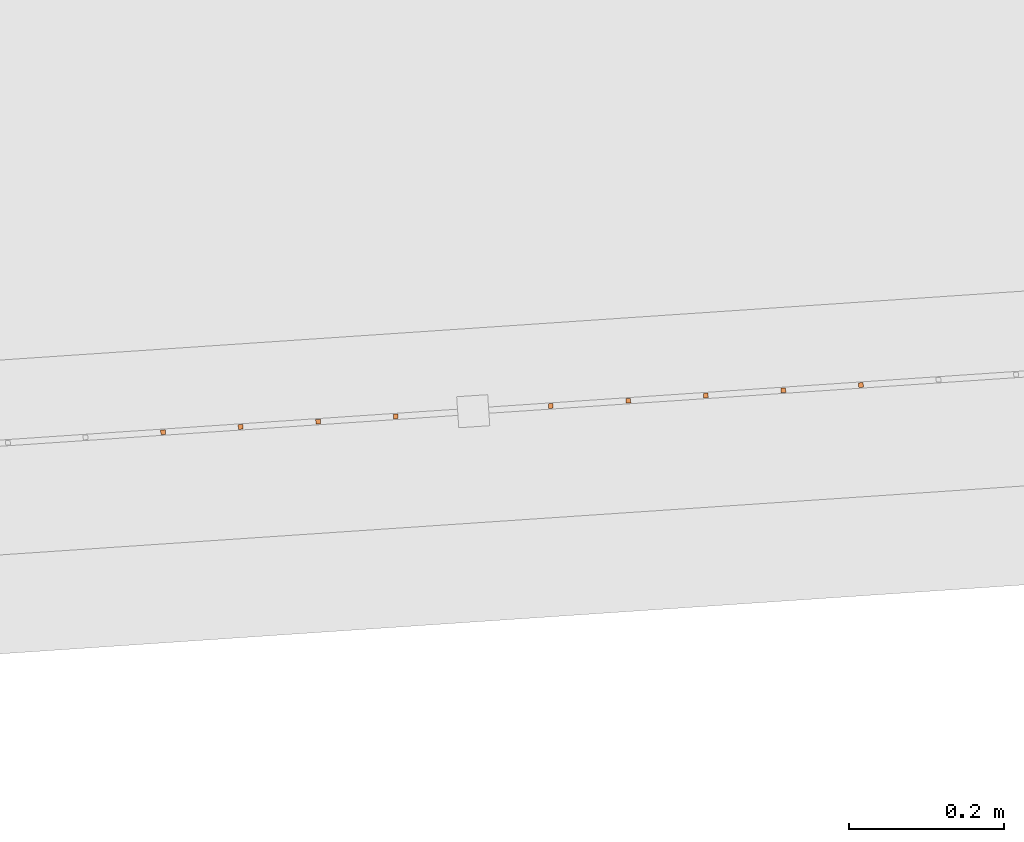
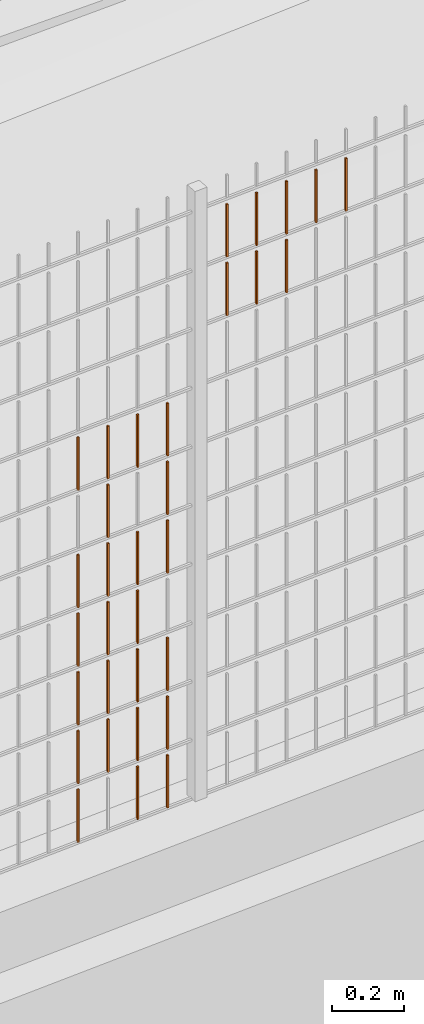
# One storey, part 314 of 1809: 32 proxies, 1 element without a shape of its own.
"""IFC2X3 building model written with IfcOpenShell, lengths in millimetres."""

from ifc_helpers import new_model, entity, si_unit, converted_unit, derived_unit, money_unit, direction, frame, origin_with_axes, place, context, subcontext, project, spatial, faceted_brep, source, transform, mapped, material, type_object, element, aggregate, save


model = new_model("IFC2X3")

# Units and contexts
model_context = context("Model", 3, precision=0.01, world=origin_with_axes(), true_north=direction((0.0, 1.0)))
body_context = subcontext(model_context, "Body", "Model", "MODEL_VIEW")
ifc_project = project(units=[si_unit("LENGTHUNIT", "METRE", prefix="MILLI"), si_unit("AREAUNIT", "SQUARE_METRE"), si_unit("VOLUMEUNIT", "CUBIC_METRE"), converted_unit("PLANEANGLEUNIT", "DEGREE", entity("IfcPlaneAngleMeasure", 0.0174532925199), si_unit("PLANEANGLEUNIT", "RADIAN"), dimensions=[0, 0, 0, 0, 0, 0, 0]), si_unit("SOLIDANGLEUNIT", "STERADIAN"), money_unit("EUR"), converted_unit("TIMEUNIT", "Year", entity("IfcTimeMeasure", 31556926.0), si_unit("TIMEUNIT", "SECOND"), dimensions=[0, 0, 1, 0, 0, 0, 0]), si_unit("MASSUNIT", "GRAM", prefix="KILO"), si_unit("THERMODYNAMICTEMPERATUREUNIT", "DEGREE_CELSIUS"), si_unit("LUMINOUSINTENSITYUNIT", "LUMEN"), si_unit("ENERGYUNIT", "JOULE", prefix="MEGA"), derived_unit("THERMALCONDUCTANCEUNIT", [(si_unit("POWERUNIT", "WATT"), 1), (si_unit("LENGTHUNIT", "METRE"), -1), (si_unit("THERMODYNAMICTEMPERATUREUNIT", "KELVIN"), -1)]), derived_unit("SPECIFICHEATCAPACITYUNIT", [(si_unit("ENERGYUNIT", "JOULE"), 1), (si_unit("MASSUNIT", "GRAM", prefix="KILO"), -1), (si_unit("THERMODYNAMICTEMPERATUREUNIT", "KELVIN"), -1)]), derived_unit("MASSDENSITYUNIT", [(si_unit("MASSUNIT", "GRAM", prefix="KILO"), 1), (si_unit("VOLUMEUNIT", "CUBIC_METRE"), -1)])], contexts=[model_context])

# Site, building, storey
site_placement = place(None, origin_with_axes())
site = spatial("IfcSite", under=ifc_project, at=site_placement, Name="Politse- ja Piirivalveameti ning Päästeameti ühishoone", CompositionType="ELEMENT")
building_placement = place(site_placement, origin_with_axes())
building = spatial("IfcBuilding", under=site, at=building_placement, Name="Politse- ja Piirivalveameti ning Päästeameti ühishoone", CompositionType="ELEMENT")
storey_placement = place(building_placement, origin_with_axes())
storey = spatial("IfcBuildingStorey", under=building, at=storey_placement, Name="Esimene korrus", CompositionType="ELEMENT", Elevation=0.0)

# Proxies
building_element_proxy_type_1 = type_object("IfcBuildingElementProxyType", Name="Railing Type", PredefinedType="NOTDEFINED")
proxy_1_placement = place(storey_placement, frame((89252.001212, -29183.4766571, 203.661247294), z_axis=(0.0, 0.0, 1.0), x_axis=(1.0, 0.0, 0.0)))
proxy_1 = element("IfcBuildingElementProxy", 1, at=proxy_1_placement, inside=storey, type_object=building_element_proxy_type_1, Name="PIIRDEAED")
ifc_material = material(Name="ET-03_Raud")
building_element_proxy_type_2 = type_object("IfcBuildingElementProxyType", Name="IfcBuildingElementProxy", PredefinedType="NOTDEFINED")
shared_shape_1 = source(origin_with_axes(), body_context, "Body", "Brep", [
    faceted_brep([(3.0, 3.0, -0.000752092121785), (-3.0, 3.0, -0.000752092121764), (-3.0, 3.0, 179.99926046), (3.0, 3.0, 179.99926046), (3.0, -3.0, 0.000752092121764), (-3.0, -3.0, 0.000752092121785), (-3.0, -3.0, 180.000764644), (3.0, -3.0, 180.000764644)], [[[0, 1, 2, 3]], [[0, 4, 5, 1]], [[1, 5, 6, 2]], [[3, 2, 6, 7]], [[4, 0, 3, 7]], [[5, 4, 7, 6]]]),
])
proxy_2_placement = place(proxy_1_placement, frame((-39636.3705454, -19975.0620097, 1817.27500916), z_axis=(0.0, 0.0, 1.0), x_axis=(1.0, 0.0, 0.0)))
proxy_2 = element("IfcBuildingElementProxy", 2, at=proxy_2_placement, type_object=building_element_proxy_type_2, material=ifc_material, Name="BALUSTER - 001", context=body_context, shape_type="MappedRepresentation", body=[
    mapped(shared_shape_1, transform((0.0, 0.0, 0.0), x_axis=(-0.0673926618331, 0.997726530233, 0.0), y_axis=(-0.997726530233, -0.0673926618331, 0.0), z_axis=(0.0, 0.0, 1.0))),
])
shared_shape_2 = source(origin_with_axes(), body_context, "Body", "Brep", [
    faceted_brep([(3.0, 3.0, -0.000752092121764), (-3.0, 3.0, -0.000752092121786), (-3.0, 3.0, 179.99926046), (3.0, 3.0, 179.99926046), (3.0, -3.0, 0.000752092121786), (-3.0, -3.0, 0.000752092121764), (-3.0, -3.0, 180.000764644), (3.0, -3.0, 180.000764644)], [[[0, 1, 2, 3]], [[0, 4, 5, 1]], [[1, 5, 6, 2]], [[3, 2, 6, 7]], [[4, 0, 3, 7]], [[5, 4, 7, 6]]]),
])
proxy_3_placement = place(proxy_1_placement, frame((-39935.6885045, -19995.2798082, 1217.19979995), z_axis=(0.0, 0.0, 1.0), x_axis=(1.0, 0.0, 0.0)))
proxy_3 = element("IfcBuildingElementProxy", 3, at=proxy_3_placement, type_object=building_element_proxy_type_2, material=ifc_material, Name="BALUSTER - 001", context=body_context, shape_type="MappedRepresentation", body=[
    mapped(shared_shape_2, transform((0.0, 0.0, 0.0), x_axis=(-0.0673926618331, 0.997726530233, 0.0), y_axis=(-0.997726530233, -0.0673926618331, 0.0), z_axis=(0.0, 0.0, 1.0))),
])
shared_shape_3 = source(origin_with_axes(), body_context, "Body", "Brep", [
    faceted_brep([(3.0, 3.0, -0.000752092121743), (-3.0, 3.0, -0.000752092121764), (-3.0, 3.0, 179.99926046), (3.0, 3.0, 179.99926046), (3.0, -3.0, 0.000752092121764), (-3.0, -3.0, 0.000752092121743), (-3.0, -3.0, 180.000764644), (3.0, -3.0, 180.000764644)], [[[0, 1, 2, 3]], [[0, 4, 5, 1]], [[1, 5, 6, 2]], [[3, 2, 6, 7]], [[4, 0, 3, 7]], [[5, 4, 7, 6]]]),
])
proxy_4_placement = place(proxy_1_placement, frame((-39835.9158515, -19988.5405421, 1217.22486969), z_axis=(0.0, 0.0, 1.0), x_axis=(1.0, 0.0, 0.0)))
proxy_4 = element("IfcBuildingElementProxy", 4, at=proxy_4_placement, type_object=building_element_proxy_type_2, material=ifc_material, Name="BALUSTER - 001", context=body_context, shape_type="MappedRepresentation", body=[
    mapped(shared_shape_3, transform((0.0, 0.0, 0.0), x_axis=(-0.0673926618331, 0.997726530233, 0.0), y_axis=(-0.997726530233, -0.0673926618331, 0.0), z_axis=(0.0, 0.0, 1.0))),
])
shared_shape_4 = source(origin_with_axes(), body_context, "Body", "Brep", [
    faceted_brep([(3.0, 3.0, -0.000752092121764), (-3.0, 3.0, -0.000752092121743), (-3.0, 3.0, 179.99926046), (3.0, 3.0, 179.99926046), (3.0, -3.0, 0.000752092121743), (-3.0, -3.0, 0.000752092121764), (-3.0, -3.0, 180.000764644), (3.0, -3.0, 180.000764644)], [[[0, 1, 2, 3]], [[0, 4, 5, 1]], [[1, 5, 6, 2]], [[3, 2, 6, 7]], [[4, 0, 3, 7]], [[5, 4, 7, 6]]]),
])
proxy_5_placement = place(proxy_1_placement, frame((-39536.5978924, -19968.3227435, 1617.3000789), z_axis=(0.0, 0.0, 1.0), x_axis=(1.0, 0.0, 0.0)))
proxy_5 = element("IfcBuildingElementProxy", 5, at=proxy_5_placement, type_object=building_element_proxy_type_2, material=ifc_material, Name="BALUSTER - 001", context=body_context, shape_type="MappedRepresentation", body=[
    mapped(shared_shape_4, transform((0.0, 0.0, 0.0), x_axis=(-0.0673926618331, 0.997726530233, 0.0), y_axis=(-0.997726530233, -0.0673926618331, 0.0), z_axis=(0.0, 0.0, 1.0))),
])
shared_shape_5 = source(origin_with_axes(), body_context, "Body", "Brep", [
    faceted_brep([(3.0, 3.0, -0.000752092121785), (-3.0, 3.0, -0.000752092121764), (-3.0, 3.0, 179.99926046), (3.0, 3.0, 179.99926046), (3.0, -3.0, 0.000752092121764), (-3.0, -3.0, 0.000752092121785), (-3.0, -3.0, 180.000764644), (3.0, -3.0, 180.000764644)], [[[0, 1, 2, 3]], [[0, 4, 5, 1]], [[1, 5, 6, 2]], [[3, 2, 6, 7]], [[4, 0, 3, 7]], [[5, 4, 7, 6]]]),
])
proxy_6_placement = place(proxy_1_placement, frame((-39636.3705454, -19975.0620097, 1617.27500916), z_axis=(0.0, 0.0, 1.0), x_axis=(1.0, 0.0, 0.0)))
proxy_6 = element("IfcBuildingElementProxy", 6, at=proxy_6_placement, type_object=building_element_proxy_type_2, material=ifc_material, Name="BALUSTER - 001", context=body_context, shape_type="MappedRepresentation", body=[
    mapped(shared_shape_5, transform((0.0, 0.0, 0.0), x_axis=(-0.0673926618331, 0.997726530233, 0.0), y_axis=(-0.997726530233, -0.0673926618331, 0.0), z_axis=(0.0, 0.0, 1.0))),
])
shared_shape_6 = source(origin_with_axes(), body_context, "Body", "Brep", [
    faceted_brep([(3.0, 3.0, -0.000752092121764), (-3.0, 3.0, -0.000752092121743), (-3.0, 3.0, 179.99926046), (3.0, 3.0, 179.99926046), (3.0, -3.0, 0.000752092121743), (-3.0, -3.0, 0.000752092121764), (-3.0, -3.0, 180.000764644), (3.0, -3.0, 180.000764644)], [[[0, 1, 2, 3]], [[0, 4, 5, 1]], [[1, 5, 6, 2]], [[3, 2, 6, 7]], [[4, 0, 3, 7]], [[5, 4, 7, 6]]]),
])
proxy_7_placement = place(proxy_1_placement, frame((-39536.5978924, -19968.3227435, 1817.3000789), z_axis=(0.0, 0.0, 1.0), x_axis=(1.0, 0.0, 0.0)))
proxy_7 = element("IfcBuildingElementProxy", 7, at=proxy_7_placement, type_object=building_element_proxy_type_2, material=ifc_material, Name="BALUSTER - 001", context=body_context, shape_type="MappedRepresentation", body=[
    mapped(shared_shape_6, transform((0.0, 0.0, 0.0), x_axis=(-0.0673926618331, 0.997726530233, 0.0), y_axis=(-0.997726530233, -0.0673926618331, 0.0), z_axis=(0.0, 0.0, 1.0))),
])
shared_shape_7 = source(origin_with_axes(), body_context, "Body", "Brep", [
    faceted_brep([(3.0, 3.0, -0.000752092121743), (-3.0, 3.0, -0.000752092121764), (-3.0, 3.0, 179.99926046), (3.0, 3.0, 179.99926046), (3.0, -3.0, 0.000752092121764), (-3.0, -3.0, 0.000752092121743), (-3.0, -3.0, 180.000764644), (3.0, -3.0, 180.000764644)], [[[0, 1, 2, 3]], [[0, 4, 5, 1]], [[1, 5, 6, 2]], [[3, 2, 6, 7]], [[4, 0, 3, 7]], [[5, 4, 7, 6]]]),
])
proxy_8_placement = place(proxy_1_placement, frame((-39935.6885045, -19995.2798082, 17.1997999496), z_axis=(0.0, 0.0, 1.0), x_axis=(1.0, 0.0, 0.0)))
proxy_8 = element("IfcBuildingElementProxy", 8, at=proxy_8_placement, type_object=building_element_proxy_type_2, material=ifc_material, Name="BALUSTER - 001", context=body_context, shape_type="MappedRepresentation", body=[
    mapped(shared_shape_7, transform((0.0, 0.0, 0.0), x_axis=(-0.0673926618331, 0.997726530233, 0.0), y_axis=(-0.997726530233, -0.0673926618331, 0.0), z_axis=(0.0, 0.0, 1.0))),
])
proxy_9_placement = place(proxy_1_placement, frame((-39935.6885045, -19995.2798082, 217.19979995), z_axis=(0.0, 0.0, 1.0), x_axis=(1.0, 0.0, 0.0)))
proxy_9 = element("IfcBuildingElementProxy", 9, at=proxy_9_placement, type_object=building_element_proxy_type_2, material=ifc_material, Name="BALUSTER - 001", context=body_context, shape_type="MappedRepresentation", body=[
    mapped(shared_shape_7, transform((0.0, 0.0, 0.0), x_axis=(-0.0673926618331, 0.997726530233, 0.0), y_axis=(-0.997726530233, -0.0673926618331, 0.0), z_axis=(0.0, 0.0, 1.0))),
])
shared_shape_8 = source(origin_with_axes(), body_context, "Body", "Brep", [
    faceted_brep([(3.0, 3.0, -0.000752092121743), (-3.0, 3.0, -0.000752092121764), (-3.0, 3.0, 179.99926046), (3.0, 3.0, 179.99926046), (3.0, -3.0, 0.000752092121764), (-3.0, -3.0, 0.000752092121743), (-3.0, -3.0, 180.000764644), (3.0, -3.0, 180.000764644)], [[[0, 1, 2, 3]], [[0, 4, 5, 1]], [[1, 5, 6, 2]], [[3, 2, 6, 7]], [[4, 0, 3, 7]], [[5, 4, 7, 6]]]),
])
proxy_10_placement = place(proxy_1_placement, frame((-39935.6885045, -19995.2798082, 417.19979995), z_axis=(0.0, 0.0, 1.0), x_axis=(1.0, 0.0, 0.0)))
proxy_10 = element("IfcBuildingElementProxy", 10, at=proxy_10_placement, type_object=building_element_proxy_type_2, material=ifc_material, Name="BALUSTER - 001", context=body_context, shape_type="MappedRepresentation", body=[
    mapped(shared_shape_8, transform((0.0, 0.0, 0.0), x_axis=(-0.0673926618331, 0.997726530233, 0.0), y_axis=(-0.997726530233, -0.0673926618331, 0.0), z_axis=(0.0, 0.0, 1.0))),
])
shared_shape_9 = source(origin_with_axes(), body_context, "Body", "Brep", [
    faceted_brep([(3.0, 3.0, -0.000752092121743), (-3.0, 3.0, -0.000752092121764), (-3.0, 3.0, 179.99926046), (3.0, 3.0, 179.99926046), (3.0, -3.0, 0.000752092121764), (-3.0, -3.0, 0.000752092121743), (-3.0, -3.0, 180.000764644), (3.0, -3.0, 180.000764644)], [[[0, 1, 2, 3]], [[0, 4, 5, 1]], [[1, 5, 6, 2]], [[3, 2, 6, 7]], [[4, 0, 3, 7]], [[5, 4, 7, 6]]]),
])
proxy_11_placement = place(proxy_1_placement, frame((-39935.6885045, -19995.2798082, 617.19979995), z_axis=(0.0, 0.0, 1.0), x_axis=(1.0, 0.0, 0.0)))
proxy_11 = element("IfcBuildingElementProxy", 11, at=proxy_11_placement, type_object=building_element_proxy_type_2, material=ifc_material, Name="BALUSTER - 001", context=body_context, shape_type="MappedRepresentation", body=[
    mapped(shared_shape_9, transform((0.0, 0.0, 0.0), x_axis=(-0.0673926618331, 0.997726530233, 0.0), y_axis=(-0.997726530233, -0.0673926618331, 0.0), z_axis=(0.0, 0.0, 1.0))),
])
shared_shape_10 = source(origin_with_axes(), body_context, "Body", "Brep", [
    faceted_brep([(3.0, 3.0, -0.000752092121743), (-3.0, 3.0, -0.000752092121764), (-3.0, 3.0, 179.99926046), (3.0, 3.0, 179.99926046), (3.0, -3.0, 0.000752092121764), (-3.0, -3.0, 0.000752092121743), (-3.0, -3.0, 180.000764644), (3.0, -3.0, 180.000764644)], [[[0, 1, 2, 3]], [[0, 4, 5, 1]], [[1, 5, 6, 2]], [[3, 2, 6, 7]], [[4, 0, 3, 7]], [[5, 4, 7, 6]]]),
])
proxy_12_placement = place(proxy_1_placement, frame((-39935.6885045, -19995.2798082, 817.19979995), z_axis=(0.0, 0.0, 1.0), x_axis=(1.0, 0.0, 0.0)))
proxy_12 = element("IfcBuildingElementProxy", 12, at=proxy_12_placement, type_object=building_element_proxy_type_2, material=ifc_material, Name="BALUSTER - 001", context=body_context, shape_type="MappedRepresentation", body=[
    mapped(shared_shape_10, transform((0.0, 0.0, 0.0), x_axis=(-0.0673926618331, 0.997726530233, 0.0), y_axis=(-0.997726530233, -0.0673926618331, 0.0), z_axis=(0.0, 0.0, 1.0))),
])
shared_shape_11 = source(origin_with_axes(), body_context, "Body", "Brep", [
    faceted_brep([(3.0, 3.0, -0.000752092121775), (-3.0, 3.0, -0.000752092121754), (-3.0, 3.0, 179.99926046), (3.0, 3.0, 179.99926046), (3.0, -3.0, 0.000752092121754), (-3.0, -3.0, 0.000752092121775), (-3.0, -3.0, 180.000764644), (3.0, -3.0, 180.000764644)], [[[0, 1, 2, 3]], [[0, 4, 5, 1]], [[1, 5, 6, 2]], [[3, 2, 6, 7]], [[4, 0, 3, 7]], [[5, 4, 7, 6]]]),
])
proxy_13_placement = place(proxy_1_placement, frame((-40135.2338106, -20008.7583406, 217.149660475), z_axis=(0.0, 0.0, 1.0), x_axis=(1.0, 0.0, 0.0)))
proxy_13 = element("IfcBuildingElementProxy", 13, at=proxy_13_placement, type_object=building_element_proxy_type_2, material=ifc_material, Name="BALUSTER - 001", context=body_context, shape_type="MappedRepresentation", body=[
    mapped(shared_shape_11, transform((0.0, 0.0, 0.0), x_axis=(-0.0673926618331, 0.997726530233, 0.0), y_axis=(-0.997726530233, -0.0673926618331, 0.0), z_axis=(0.0, 0.0, 1.0))),
])
proxy_14_placement = place(proxy_1_placement, frame((-40135.2338106, -20008.7583406, 417.149660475), z_axis=(0.0, 0.0, 1.0), x_axis=(1.0, 0.0, 0.0)))
proxy_14 = element("IfcBuildingElementProxy", 14, at=proxy_14_placement, type_object=building_element_proxy_type_2, material=ifc_material, Name="BALUSTER - 001", context=body_context, shape_type="MappedRepresentation", body=[
    mapped(shared_shape_11, transform((0.0, 0.0, 0.0), x_axis=(-0.0673926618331, 0.997726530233, 0.0), y_axis=(-0.997726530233, -0.0673926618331, 0.0), z_axis=(0.0, 0.0, 1.0))),
])
shared_shape_12 = source(origin_with_axes(), body_context, "Body", "Brep", [
    faceted_brep([(3.0, 3.0, -0.000752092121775), (-3.0, 3.0, -0.000752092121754), (-3.0, 3.0, 179.99926046), (3.0, 3.0, 179.99926046), (3.0, -3.0, 0.000752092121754), (-3.0, -3.0, 0.000752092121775), (-3.0, -3.0, 180.000764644), (3.0, -3.0, 180.000764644)], [[[0, 1, 2, 3]], [[0, 4, 5, 1]], [[1, 5, 6, 2]], [[3, 2, 6, 7]], [[4, 0, 3, 7]], [[5, 4, 7, 6]]]),
])
proxy_15_placement = place(proxy_1_placement, frame((-40135.2338106, -20008.7583406, 817.149660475), z_axis=(0.0, 0.0, 1.0), x_axis=(1.0, 0.0, 0.0)))
proxy_15 = element("IfcBuildingElementProxy", 15, at=proxy_15_placement, type_object=building_element_proxy_type_2, material=ifc_material, Name="BALUSTER - 001", context=body_context, shape_type="MappedRepresentation", body=[
    mapped(shared_shape_12, transform((0.0, 0.0, 0.0), x_axis=(-0.0673926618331, 0.997726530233, 0.0), y_axis=(-0.997726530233, -0.0673926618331, 0.0), z_axis=(0.0, 0.0, 1.0))),
])
shared_shape_13 = source(origin_with_axes(), body_context, "Body", "Brep", [
    faceted_brep([(3.0, 3.0, -0.000752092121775), (-3.0, 3.0, -0.000752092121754), (-3.0, 3.0, 179.99926046), (3.0, 3.0, 179.99926046), (3.0, -3.0, 0.000752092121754), (-3.0, -3.0, 0.000752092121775), (-3.0, -3.0, 180.000764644), (3.0, -3.0, 180.000764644)], [[[0, 1, 2, 3]], [[0, 4, 5, 1]], [[1, 5, 6, 2]], [[3, 2, 6, 7]], [[4, 0, 3, 7]], [[5, 4, 7, 6]]]),
])
proxy_16_placement = place(proxy_1_placement, frame((-40135.2338106, -20008.7583406, 617.149660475), z_axis=(0.0, 0.0, 1.0), x_axis=(1.0, 0.0, 0.0)))
proxy_16 = element("IfcBuildingElementProxy", 16, at=proxy_16_placement, type_object=building_element_proxy_type_2, material=ifc_material, Name="BALUSTER - 001", context=body_context, shape_type="MappedRepresentation", body=[
    mapped(shared_shape_13, transform((0.0, 0.0, 0.0), x_axis=(-0.0673926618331, 0.997726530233, 0.0), y_axis=(-0.997726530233, -0.0673926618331, 0.0), z_axis=(0.0, 0.0, 1.0))),
])
shared_shape_14 = source(origin_with_axes(), body_context, "Body", "Brep", [
    faceted_brep([(3.0, 3.0, -0.000752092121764), (-3.0, 3.0, -0.000752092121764), (-3.0, 3.0, 179.99926046), (3.0, 3.0, 179.99926046), (3.0, -3.0, 0.000752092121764), (-3.0, -3.0, 0.000752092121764), (-3.0, -3.0, 180.000764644), (3.0, -3.0, 180.000764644)], [[[0, 1, 2, 3]], [[0, 4, 5, 1]], [[1, 5, 6, 2]], [[3, 2, 6, 7]], [[4, 0, 3, 7]], [[5, 4, 7, 6]]]),
])
proxy_17_placement = place(proxy_1_placement, frame((-40035.4611575, -20002.0190744, 817.174730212), z_axis=(0.0, 0.0, 1.0), x_axis=(1.0, 0.0, 0.0)))
proxy_17 = element("IfcBuildingElementProxy", 17, at=proxy_17_placement, type_object=building_element_proxy_type_2, material=ifc_material, Name="BALUSTER - 001", context=body_context, shape_type="MappedRepresentation", body=[
    mapped(shared_shape_14, transform((0.0, 0.0, 0.0), x_axis=(-0.0673926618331, 0.997726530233, 0.0), y_axis=(-0.997726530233, -0.0673926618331, 0.0), z_axis=(0.0, 0.0, 1.0))),
])
shared_shape_15 = source(origin_with_axes(), body_context, "Body", "Brep", [
    faceted_brep([(3.0, 3.0, -0.000752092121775), (-3.0, 3.0, -0.000752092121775), (-3.0, 3.0, 179.99926046), (3.0, 3.0, 179.99926046), (3.0, -3.0, 0.000752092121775), (-3.0, -3.0, 0.000752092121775), (-3.0, -3.0, 180.000764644), (3.0, -3.0, 180.000764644)], [[[0, 1, 2, 3]], [[0, 4, 5, 1]], [[1, 5, 6, 2]], [[3, 2, 6, 7]], [[4, 0, 3, 7]], [[5, 4, 7, 6]]]),
])
proxy_18_placement = place(proxy_1_placement, frame((-39835.9158515, -19988.5405421, 17.224869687), z_axis=(0.0, 0.0, 1.0), x_axis=(1.0, 0.0, 0.0)))
proxy_18 = element("IfcBuildingElementProxy", 18, at=proxy_18_placement, type_object=building_element_proxy_type_2, material=ifc_material, Name="BALUSTER - 001", context=body_context, shape_type="MappedRepresentation", body=[
    mapped(shared_shape_15, transform((0.0, 0.0, 0.0), x_axis=(-0.0673926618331, 0.997726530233, 0.0), y_axis=(-0.997726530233, -0.0673926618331, 0.0), z_axis=(0.0, 0.0, 1.0))),
])
shared_shape_16 = source(origin_with_axes(), body_context, "Body", "Brep", [
    faceted_brep([(3.0, 3.0, -0.000752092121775), (-3.0, 3.0, -0.000752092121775), (-3.0, 3.0, 179.99926046), (3.0, 3.0, 179.99926046), (3.0, -3.0, 0.000752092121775), (-3.0, -3.0, 0.000752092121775), (-3.0, -3.0, 180.000764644), (3.0, -3.0, 180.000764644)], [[[0, 1, 2, 3]], [[0, 4, 5, 1]], [[1, 5, 6, 2]], [[3, 2, 6, 7]], [[4, 0, 3, 7]], [[5, 4, 7, 6]]]),
])
proxy_19_placement = place(proxy_1_placement, frame((-39835.9158515, -19988.5405421, 417.224869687), z_axis=(0.0, 0.0, 1.0), x_axis=(1.0, 0.0, 0.0)))
proxy_19 = element("IfcBuildingElementProxy", 19, at=proxy_19_placement, type_object=building_element_proxy_type_2, material=ifc_material, Name="BALUSTER - 001", context=body_context, shape_type="MappedRepresentation", body=[
    mapped(shared_shape_16, transform((0.0, 0.0, 0.0), x_axis=(-0.0673926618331, 0.997726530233, 0.0), y_axis=(-0.997726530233, -0.0673926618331, 0.0), z_axis=(0.0, 0.0, 1.0))),
])
shared_shape_17 = source(origin_with_axes(), body_context, "Body", "Brep", [
    faceted_brep([(3.0, 3.0, -0.000752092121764), (-3.0, 3.0, -0.000752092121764), (-3.0, 3.0, 179.99926046), (3.0, 3.0, 179.99926046), (3.0, -3.0, 0.000752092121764), (-3.0, -3.0, 0.000752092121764), (-3.0, -3.0, 180.000764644), (3.0, -3.0, 180.000764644)], [[[0, 1, 2, 3]], [[0, 4, 5, 1]], [[1, 5, 6, 2]], [[3, 2, 6, 7]], [[4, 0, 3, 7]], [[5, 4, 7, 6]]]),
])
proxy_20_placement = place(proxy_1_placement, frame((-40035.4611575, -20002.0190744, 217.174730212), z_axis=(0.0, 0.0, 1.0), x_axis=(1.0, 0.0, 0.0)))
proxy_20 = element("IfcBuildingElementProxy", 20, at=proxy_20_placement, type_object=building_element_proxy_type_2, material=ifc_material, Name="BALUSTER - 001", context=body_context, shape_type="MappedRepresentation", body=[
    mapped(shared_shape_17, transform((0.0, 0.0, 0.0), x_axis=(-0.0673926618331, 0.997726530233, 0.0), y_axis=(-0.997726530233, -0.0673926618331, 0.0), z_axis=(0.0, 0.0, 1.0))),
])
proxy_21_placement = place(proxy_1_placement, frame((-40035.4611575, -20002.0190744, 617.174730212), z_axis=(0.0, 0.0, 1.0), x_axis=(1.0, 0.0, 0.0)))
proxy_21 = element("IfcBuildingElementProxy", 21, at=proxy_21_placement, type_object=building_element_proxy_type_2, material=ifc_material, Name="BALUSTER - 001", context=body_context, shape_type="MappedRepresentation", body=[
    mapped(shared_shape_17, transform((0.0, 0.0, 0.0), x_axis=(-0.0673926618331, 0.997726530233, 0.0), y_axis=(-0.997726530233, -0.0673926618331, 0.0), z_axis=(0.0, 0.0, 1.0))),
])
shared_shape_18 = source(origin_with_axes(), body_context, "Body", "Brep", [
    faceted_brep([(3.0, 3.0, -0.000752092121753), (-3.0, 3.0, -0.000752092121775), (-3.0, 3.0, 179.99926046), (3.0, 3.0, 179.99926046), (3.0, -3.0, 0.000752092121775), (-3.0, -3.0, 0.000752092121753), (-3.0, -3.0, 180.000764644), (3.0, -3.0, 180.000764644)], [[[0, 1, 2, 3]], [[0, 4, 5, 1]], [[1, 5, 6, 2]], [[3, 2, 6, 7]], [[4, 0, 3, 7]], [[5, 4, 7, 6]]]),
])
proxy_22_placement = place(proxy_1_placement, frame((-39237.2799333, -19948.104945, 1817.37528811), z_axis=(0.0, 0.0, 1.0), x_axis=(1.0, 0.0, 0.0)))
proxy_22 = element("IfcBuildingElementProxy", 22, at=proxy_22_placement, type_object=building_element_proxy_type_2, material=ifc_material, Name="BALUSTER - 001", context=body_context, shape_type="MappedRepresentation", body=[
    mapped(shared_shape_18, transform((0.0, 0.0, 0.0), x_axis=(-0.0673926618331, 0.997726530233, 0.0), y_axis=(-0.997726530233, -0.0673926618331, 0.0), z_axis=(0.0, 0.0, 1.0))),
])
proxy_23_placement = place(proxy_1_placement, frame((-40035.4611575, -20002.0190744, 1217.17473021), z_axis=(0.0, 0.0, 1.0), x_axis=(1.0, 0.0, 0.0)))
proxy_23 = element("IfcBuildingElementProxy", 23, at=proxy_23_placement, type_object=building_element_proxy_type_2, material=ifc_material, Name="BALUSTER - 001", context=body_context, shape_type="MappedRepresentation", body=[
    mapped(shared_shape_18, transform((0.0, 0.0, 0.0), x_axis=(-0.0673926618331, 0.997726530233, 0.0), y_axis=(-0.997726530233, -0.0673926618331, 0.0), z_axis=(0.0, 0.0, 1.0))),
])
shared_shape_19 = source(origin_with_axes(), body_context, "Body", "Brep", [
    faceted_brep([(3.0, 3.0, -0.000752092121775), (-3.0, 3.0, -0.000752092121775), (-3.0, 3.0, 179.99926046), (3.0, 3.0, 179.99926046), (3.0, -3.0, 0.000752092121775), (-3.0, -3.0, 0.000752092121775), (-3.0, -3.0, 180.000764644), (3.0, -3.0, 180.000764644)], [[[0, 1, 2, 3]], [[0, 4, 5, 1]], [[1, 5, 6, 2]], [[3, 2, 6, 7]], [[4, 0, 3, 7]], [[5, 4, 7, 6]]]),
])
proxy_24_placement = place(proxy_1_placement, frame((-39835.9158515, -19988.5405421, 817.224869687), z_axis=(0.0, 0.0, 1.0), x_axis=(1.0, 0.0, 0.0)))
proxy_24 = element("IfcBuildingElementProxy", 24, at=proxy_24_placement, type_object=building_element_proxy_type_2, material=ifc_material, Name="BALUSTER - 001", context=body_context, shape_type="MappedRepresentation", body=[
    mapped(shared_shape_19, transform((0.0, 0.0, 0.0), x_axis=(-0.0673926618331, 0.997726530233, 0.0), y_axis=(-0.997726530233, -0.0673926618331, 0.0), z_axis=(0.0, 0.0, 1.0))),
])
shared_shape_20 = source(origin_with_axes(), body_context, "Body", "Brep", [
    faceted_brep([(3.0, 3.0, -0.000752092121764), (-3.0, 3.0, -0.000752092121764), (-3.0, 3.0, 179.99926046), (3.0, 3.0, 179.99926046), (3.0, -3.0, 0.000752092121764), (-3.0, -3.0, 0.000752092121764), (-3.0, -3.0, 180.000764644), (3.0, -3.0, 180.000764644)], [[[0, 1, 2, 3]], [[0, 4, 5, 1]], [[1, 5, 6, 2]], [[3, 2, 6, 7]], [[4, 0, 3, 7]], [[5, 4, 7, 6]]]),
])
proxy_25_placement = place(proxy_1_placement, frame((-39337.0525864, -19954.8442111, 1817.35021837), z_axis=(0.0, 0.0, 1.0), x_axis=(1.0, 0.0, 0.0)))
proxy_25 = element("IfcBuildingElementProxy", 25, at=proxy_25_placement, type_object=building_element_proxy_type_2, material=ifc_material, Name="BALUSTER - 001", context=body_context, shape_type="MappedRepresentation", body=[
    mapped(shared_shape_20, transform((0.0, 0.0, 0.0), x_axis=(-0.0673926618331, 0.997726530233, 0.0), y_axis=(-0.997726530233, -0.0673926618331, 0.0), z_axis=(0.0, 0.0, 1.0))),
])
shared_shape_21 = source(origin_with_axes(), body_context, "Body", "Brep", [
    faceted_brep([(3.0, 3.0, -0.000752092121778), (-3.0, 3.0, -0.000752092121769), (-3.00000000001, 2.99999999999, 179.99926046), (2.99999999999, 2.99999999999, 179.99926046), (3.0, -3.0, 0.000752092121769), (-3.0, -3.0, 0.000752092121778), (-3.00000000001, -3.00000000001, 180.000764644), (2.99999999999, -3.00000000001, 180.000764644)], [[[0, 1, 2, 3]], [[0, 4, 5, 1]], [[1, 5, 6, 2]], [[3, 2, 6, 7]], [[4, 0, 3, 7]], [[5, 4, 7, 6]]]),
])
proxy_26_placement = place(proxy_1_placement, frame((-40035.4611575, -20002.0190744, 1017.17473021), z_axis=(0.0, 0.0, 1.0), x_axis=(1.0, 0.0, 0.0)))
proxy_26 = element("IfcBuildingElementProxy", 26, at=proxy_26_placement, type_object=building_element_proxy_type_2, material=ifc_material, Name="BALUSTER - 001", context=body_context, shape_type="MappedRepresentation", body=[
    mapped(shared_shape_21, transform((0.0, 0.0, 0.0), x_axis=(-0.0673926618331, 0.997726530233, 0.0), y_axis=(-0.997726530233, -0.0673926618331, 0.0), z_axis=(0.0, 0.0, 1.0))),
])
shared_shape_22 = source(origin_with_axes(), body_context, "Body", "Brep", [
    faceted_brep([(3.0, 3.0, -0.000752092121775), (-3.0, 3.0, -0.000752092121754), (-3.0, 3.0, 179.99926046), (3.0, 3.0, 179.99926046), (3.0, -3.0, 0.000752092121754), (-3.0, -3.0, 0.000752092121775), (-3.0, -3.0, 180.000764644), (3.0, -3.0, 180.000764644)], [[[0, 1, 2, 3]], [[0, 4, 5, 1]], [[1, 5, 6, 2]], [[3, 2, 6, 7]], [[4, 0, 3, 7]], [[5, 4, 7, 6]]]),
])
proxy_27_placement = place(proxy_1_placement, frame((-40135.2338106, -20008.7583406, 17.1496604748), z_axis=(0.0, 0.0, 1.0), x_axis=(1.0, 0.0, 0.0)))
proxy_27 = element("IfcBuildingElementProxy", 27, at=proxy_27_placement, type_object=building_element_proxy_type_2, material=ifc_material, Name="BALUSTER - 001", context=body_context, shape_type="MappedRepresentation", body=[
    mapped(shared_shape_22, transform((0.0, 0.0, 0.0), x_axis=(-0.0673926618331, 0.997726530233, 0.0), y_axis=(-0.997726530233, -0.0673926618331, 0.0), z_axis=(0.0, 0.0, 1.0))),
])
shared_shape_23 = source(origin_with_axes(), body_context, "Body", "Brep", [
    faceted_brep([(3.0, 3.0, -0.000752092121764), (-3.0, 3.0, -0.000752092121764), (-3.0, 3.0, 179.99926046), (3.0, 3.0, 179.99926046), (3.0, -3.0, 0.000752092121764), (-3.0, -3.0, 0.000752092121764), (-3.0, -3.0, 180.000764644), (3.0, -3.0, 180.000764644)], [[[0, 1, 2, 3]], [[0, 4, 5, 1]], [[1, 5, 6, 2]], [[3, 2, 6, 7]], [[4, 0, 3, 7]], [[5, 4, 7, 6]]]),
])
proxy_28_placement = place(proxy_1_placement, frame((-40035.4611575, -20002.0190744, 417.174730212), z_axis=(0.0, 0.0, 1.0), x_axis=(1.0, 0.0, 0.0)))
proxy_28 = element("IfcBuildingElementProxy", 28, at=proxy_28_placement, type_object=building_element_proxy_type_2, material=ifc_material, Name="BALUSTER - 001", context=body_context, shape_type="MappedRepresentation", body=[
    mapped(shared_shape_23, transform((0.0, 0.0, 0.0), x_axis=(-0.0673926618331, 0.997726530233, 0.0), y_axis=(-0.997726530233, -0.0673926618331, 0.0), z_axis=(0.0, 0.0, 1.0))),
])
shared_shape_24 = source(origin_with_axes(), body_context, "Body", "Brep", [
    faceted_brep([(3.0, 3.0, -0.000752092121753), (-3.0, 3.0, -0.000752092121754), (-3.0, 3.0, 179.99926046), (3.0, 3.0, 179.99926046), (3.0, -3.0, 0.000752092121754), (-3.0, -3.0, 0.000752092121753), (-3.0, -3.0, 180.000764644), (3.0, -3.0, 180.000764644)], [[[0, 1, 2, 3]], [[0, 4, 5, 1]], [[1, 5, 6, 2]], [[3, 2, 6, 7]], [[4, 0, 3, 7]], [[5, 4, 7, 6]]]),
])
proxy_29_placement = place(proxy_1_placement, frame((-39436.8252394, -19961.5834773, 1817.32514864), z_axis=(0.0, 0.0, 1.0), x_axis=(1.0, 0.0, 0.0)))
proxy_29 = element("IfcBuildingElementProxy", 29, at=proxy_29_placement, type_object=building_element_proxy_type_2, material=ifc_material, Name="BALUSTER - 001", context=body_context, shape_type="MappedRepresentation", body=[
    mapped(shared_shape_24, transform((0.0, 0.0, 0.0), x_axis=(-0.0673926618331, 0.997726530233, 0.0), y_axis=(-0.997726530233, -0.0673926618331, 0.0), z_axis=(0.0, 0.0, 1.0))),
])
shared_shape_25 = source(origin_with_axes(), body_context, "Body", "Brep", [
    faceted_brep([(3.0, 3.0, -0.000752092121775), (-3.0, 3.0, -0.000752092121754), (-3.0, 3.0, 179.99926046), (3.0, 3.0, 179.99926046), (3.0, -3.0, 0.000752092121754), (-3.0, -3.0, 0.000752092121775), (-3.0, -3.0, 180.000764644), (3.0, -3.0, 180.000764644)], [[[0, 1, 2, 3]], [[0, 4, 5, 1]], [[1, 5, 6, 2]], [[3, 2, 6, 7]], [[4, 0, 3, 7]], [[5, 4, 7, 6]]]),
])
proxy_30_placement = place(proxy_1_placement, frame((-40135.2338106, -20008.7583406, 1217.14966047), z_axis=(0.0, 0.0, 1.0), x_axis=(1.0, 0.0, 0.0)))
proxy_30 = element("IfcBuildingElementProxy", 30, at=proxy_30_placement, type_object=building_element_proxy_type_2, material=ifc_material, Name="BALUSTER - 001", context=body_context, shape_type="MappedRepresentation", body=[
    mapped(shared_shape_25, transform((0.0, 0.0, 0.0), x_axis=(-0.0673926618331, 0.997726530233, 0.0), y_axis=(-0.997726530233, -0.0673926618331, 0.0), z_axis=(0.0, 0.0, 1.0))),
])
shared_shape_26 = source(origin_with_axes(), body_context, "Body", "Brep", [
    faceted_brep([(3.0, 3.0, -0.000752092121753), (-3.0, 3.0, -0.000752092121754), (-3.0, 3.0, 179.99926046), (3.0, 3.0, 179.99926046), (3.0, -3.0, 0.000752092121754), (-3.0, -3.0, 0.000752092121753), (-3.0, -3.0, 180.000764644), (3.0, -3.0, 180.000764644)], [[[0, 1, 2, 3]], [[0, 4, 5, 1]], [[1, 5, 6, 2]], [[3, 2, 6, 7]], [[4, 0, 3, 7]], [[5, 4, 7, 6]]]),
])
proxy_31_placement = place(proxy_1_placement, frame((-39436.8252394, -19961.5834773, 1617.32514864), z_axis=(0.0, 0.0, 1.0), x_axis=(1.0, 0.0, 0.0)))
proxy_31 = element("IfcBuildingElementProxy", 31, at=proxy_31_placement, type_object=building_element_proxy_type_2, material=ifc_material, Name="BALUSTER - 001", context=body_context, shape_type="MappedRepresentation", body=[
    mapped(shared_shape_26, transform((0.0, 0.0, 0.0), x_axis=(-0.0673926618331, 0.997726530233, 0.0), y_axis=(-0.997726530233, -0.0673926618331, 0.0), z_axis=(0.0, 0.0, 1.0))),
])
shared_shape_27 = source(origin_with_axes(), body_context, "Body", "Brep", [
    faceted_brep([(3.0, 3.0, -0.000752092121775), (-3.0, 3.0, -0.000752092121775), (-3.0, 3.0, 179.99926046), (3.0, 3.0, 179.99926046), (3.0, -3.0, 0.000752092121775), (-3.0, -3.0, 0.000752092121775), (-3.0, -3.0, 180.000764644), (3.0, -3.0, 180.000764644)], [[[0, 1, 2, 3]], [[0, 4, 5, 1]], [[1, 5, 6, 2]], [[3, 2, 6, 7]], [[4, 0, 3, 7]], [[5, 4, 7, 6]]]),
])
proxy_32_placement = place(proxy_1_placement, frame((-39835.9158515, -19988.5405421, 217.224869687), z_axis=(0.0, 0.0, 1.0), x_axis=(1.0, 0.0, 0.0)))
proxy_32 = element("IfcBuildingElementProxy", 32, at=proxy_32_placement, type_object=building_element_proxy_type_2, material=ifc_material, Name="BALUSTER - 001", context=body_context, shape_type="MappedRepresentation", body=[
    mapped(shared_shape_27, transform((0.0, 0.0, 0.0), x_axis=(-0.0673926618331, 0.997726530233, 0.0), y_axis=(-0.997726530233, -0.0673926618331, 0.0), z_axis=(0.0, 0.0, 1.0))),
])
shared_shape_28 = source(origin_with_axes(), body_context, "Body", "Brep", [
    faceted_brep([(3.0, 3.0, -0.000752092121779), (-3.0, 3.0, -0.000752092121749), (-3.00000000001, 3.0, 179.99926046), (2.99999999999, 3.0, 179.99926046), (3.0, -3.0, 0.000752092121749), (-3.0, -3.0, 0.000752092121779), (-3.00000000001, -3.0, 180.000764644), (2.99999999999, -3.0, 180.000764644)], [[[0, 1, 2, 3]], [[0, 4, 5, 1]], [[1, 5, 6, 2]], [[3, 2, 6, 7]], [[4, 0, 3, 7]], [[5, 4, 7, 6]]]),
])
proxy_33_placement = place(proxy_1_placement, frame((-39835.9158515, -19988.5405421, 1017.22486969), z_axis=(0.0, 0.0, 1.0), x_axis=(1.0, 0.0, 0.0)))
proxy_33 = element("IfcBuildingElementProxy", 33, at=proxy_33_placement, type_object=building_element_proxy_type_2, material=ifc_material, Name="BALUSTER - 001", context=body_context, shape_type="MappedRepresentation", body=[
    mapped(shared_shape_28, transform((0.0, 0.0, 0.0), x_axis=(-0.0673926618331, 0.997726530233, 0.0), y_axis=(-0.997726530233, -0.0673926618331, 0.0), z_axis=(0.0, 0.0, 1.0))),
])
aggregate(proxy_1, [proxy_31, proxy_5, proxy_6, proxy_22, proxy_25, proxy_29, proxy_7, proxy_2, proxy_18, proxy_8, proxy_27, proxy_32, proxy_9, proxy_20, proxy_13, proxy_19, proxy_10, proxy_28, proxy_14, proxy_11, proxy_21, proxy_16, proxy_24, proxy_12, proxy_17, proxy_15, proxy_33, proxy_26, proxy_4, proxy_3, proxy_23, proxy_30])

save(model, "model.ifc")
